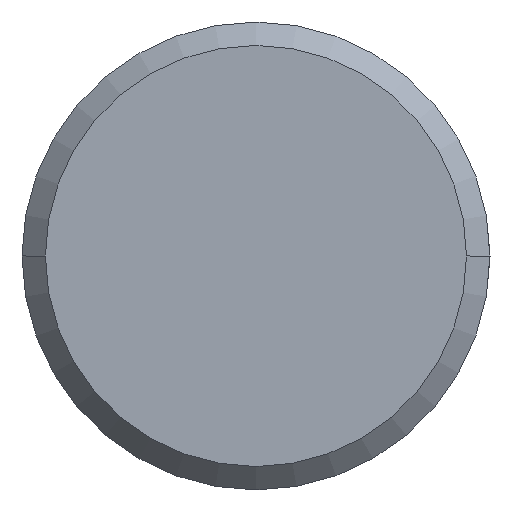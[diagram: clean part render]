
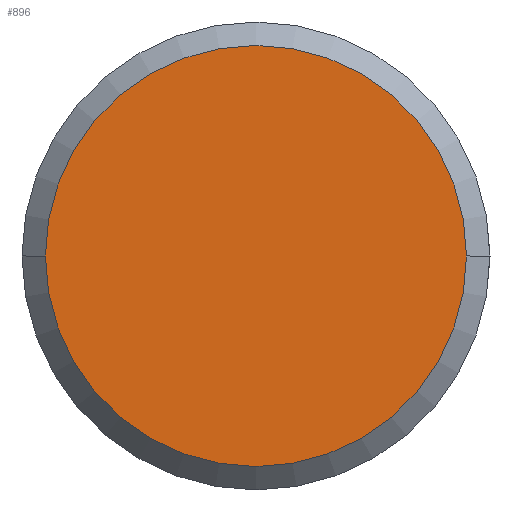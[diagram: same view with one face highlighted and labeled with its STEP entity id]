
A CAD part, left-side view. The second image highlights one B-rep face of the part: STEP entity #896.
In plain terms, the highlighted planar face has unit normal (-1, 0, 0).
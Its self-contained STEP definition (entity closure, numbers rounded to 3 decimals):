
#848=CARTESIAN_POINT('Vertex',(-10.,-18.,0.)) ;
#851=CARTESIAN_POINT('Axis2P3D Location',(-10.,0.,0.)) ;
#855=CARTESIAN_POINT('Vertex',(-10.,18.,0.)) ;
#875=CARTESIAN_POINT('Axis2P3D Location',(-10.,0.,0.)) ;
#887=CARTESIAN_POINT('Axis2P3D Location',(-10.,-9.,0.)) ;
#852=DIRECTION('Axis2P3D Direction',(1.,0.,0.)) ;
#876=DIRECTION('Axis2P3D Direction',(1.,0.,0.)) ;
#888=DIRECTION('Axis2P3D Direction',(-1.,0.,0.)) ;
#889=DIRECTION('Axis2P3D XDirection',(0.,-1.,0.)) ;
#853=AXIS2_PLACEMENT_3D('Circle Axis2P3D',#851,#852,$) ;
#877=AXIS2_PLACEMENT_3D('Circle Axis2P3D',#875,#876,$) ;
#890=AXIS2_PLACEMENT_3D('Plane Axis2P3D',#887,#888,#889) ;
#893=ORIENTED_EDGE('',*,*,#879,.F.) ;
#894=ORIENTED_EDGE('',*,*,#857,.F.) ;
#896=ADVANCED_FACE('NONE',(#895),#891,.T.) ;
#854=CIRCLE('generated circle',#853,18.) ;
#878=CIRCLE('generated circle',#877,18.) ;
#857=EDGE_CURVE('',#849,#856,#854,.T.) ;
#879=EDGE_CURVE('',#856,#849,#878,.T.) ;
#892=EDGE_LOOP('',(#893,#894)) ;
#895=FACE_OUTER_BOUND('',#892,.T.) ;
#891=PLANE('Plane',#890) ;
#849=VERTEX_POINT('',#848) ;
#856=VERTEX_POINT('',#855) ;
